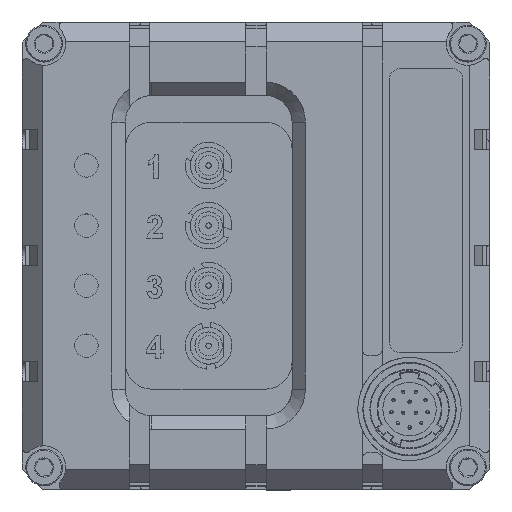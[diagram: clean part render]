
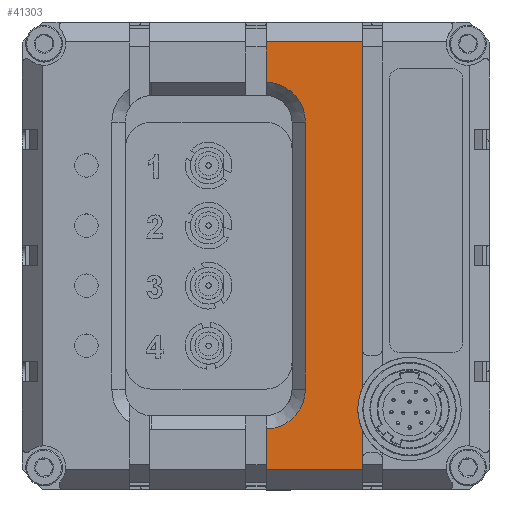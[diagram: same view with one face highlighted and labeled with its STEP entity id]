
A CAD part, top view. The second image highlights one B-rep face of the part: STEP entity #41303.
In plain terms, the highlighted planar face has unit normal (0, 0, 1).
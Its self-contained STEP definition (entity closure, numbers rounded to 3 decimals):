
#141 = AXIS2_PLACEMENT_3D ( 'NONE', #8887, #46282, #29297 ) ;
#642 = ORIENTED_EDGE ( 'NONE', *, *, #39070, .T. ) ;
#3280 = CARTESIAN_POINT ( 'NONE',  ( 1.5, -32., 12. ) ) ;
#3419 = CARTESIAN_POINT ( 'NONE',  ( 0., 0., 12. ) ) ;
#3725 = VECTOR ( 'NONE', #25055, 1000. ) ;
#4306 = CARTESIAN_POINT ( 'NONE',  ( 1.5, -25.999, 12. ) ) ;
#4331 = EDGE_CURVE ( 'Defeatured_0_998+Defeatured_0_1095+Defeatured_0_1087+Defeatured_0_1013', #6261, #35084, #21244, .T. ) ;
#4926 = LINE ( 'NONE', #35825, #50810 ) ;
#6261 = VERTEX_POINT ( 'NONE', #26375 ) ;
#6264 = CARTESIAN_POINT ( 'NONE',  ( 15.9, -26.107, 12. ) ) ;
#6731 = CARTESIAN_POINT ( 'NONE',  ( 15.9, -32., 12. ) ) ;
#7312 = ORIENTED_EDGE ( 'NONE', *, *, #35583, .T. ) ;
#7670 = DIRECTION ( 'NONE',  ( 0., 0., 1. ) ) ;
#7899 = FACE_OUTER_BOUND ( 'NONE', #44690, .T. ) ;
#7971 = VECTOR ( 'NONE', #31136, 1000. ) ;
#8006 = ORIENTED_EDGE ( 'NONE', *, *, #31013, .F. ) ;
#8147 = DIRECTION ( 'NONE',  ( 0., 0., -1. ) ) ;
#8302 = CARTESIAN_POINT ( 'NONE',  ( 1.5, -30., 12. ) ) ;
#8887 = CARTESIAN_POINT ( 'NONE',  ( 1.4, -20., 12. ) ) ;
#8984 = ORIENTED_EDGE ( 'NONE', *, *, #37152, .T. ) ;
#9510 = EDGE_CURVE ( 'Defeatured_0_1095+Defeatured_0_1036+Defeatured_0_907+Defeatured_0_1057', #36694, #51887, #24746, .T. ) ;
#10692 = VERTEX_POINT ( 'NONE', #31207 ) ;
#11033 = AXIS2_PLACEMENT_3D ( 'NONE', #28597, #7670, #45067 ) ;
#11201 = DIRECTION ( 'NONE',  ( 0., -1., 0. ) ) ;
#12128 = DIRECTION ( 'NONE',  ( 0., -1., 0. ) ) ;
#12587 = VECTOR ( 'NONE', #12128, 1000. ) ;
#13145 = EDGE_CURVE ( 'Defeatured_0_1095+Defeatured_0_909+Defeatured_0_1100+Defeatured_0_908', #17654, #45608, #23737, .T. ) ;
#14200 = VECTOR ( 'NONE', #34408, 1000. ) ;
#16390 = CARTESIAN_POINT ( 'NONE',  ( 7.4, -20., 12. ) ) ;
#17654 = VERTEX_POINT ( 'NONE', #34312 ) ;
#19704 = VERTEX_POINT ( 'NONE', #42343 ) ;
#20312 = DIRECTION ( 'NONE',  ( 0., 0., 1. ) ) ;
#20621 = ORIENTED_EDGE ( 'NONE', *, *, #22775, .F. ) ;
#21244 = CIRCLE ( 'NONE', #11033, 7.75 ) ;
#21325 = AXIS2_PLACEMENT_3D ( 'NONE', #3419, #52935, #32479 ) ;
#22174 = CARTESIAN_POINT ( 'NONE',  ( 15.9, 30., 12. ) ) ;
#22355 = CIRCLE ( 'NONE', #141, 6. ) ;
#22775 = EDGE_CURVE ( 'Defeatured_0_998+Defeatured_0_1095+Defeatured_0_1087+Defeatured_0_1013', #10692, #6261, #23649, .T. ) ;
#23408 = DIRECTION ( 'NONE',  ( 0., -1., 0. ) ) ;
#23649 = CIRCLE ( 'NONE', #53629, 7.75 ) ;
#23737 = CIRCLE ( 'NONE', #30016, 6. ) ;
#24746 = LINE ( 'NONE', #30408, #53155 ) ;
#25055 = DIRECTION ( 'NONE',  ( 1., 0., 0. ) ) ;
#26375 = CARTESIAN_POINT ( 'NONE',  ( 15.25, -23., 12. ) ) ;
#27205 = EDGE_CURVE ( 'Defeatured_0_1087+Defeatured_0_1095+Defeatured_0_1058+Defeatured_0_998', #51395, #10692, #38741, .T. ) ;
#28140 = ORIENTED_EDGE ( 'NONE', *, *, #13145, .T. ) ;
#28401 = VECTOR ( 'NONE', #11201, 1000. ) ;
#28597 = CARTESIAN_POINT ( 'NONE',  ( 23., -23., 12. ) ) ;
#28600 = DIRECTION ( 'NONE',  ( 1., 0., 0. ) ) ;
#28661 = CARTESIAN_POINT ( 'NONE',  ( 15.9, 32., 12. ) ) ;
#29297 = DIRECTION ( 'NONE',  ( 1., 0., 0. ) ) ;
#30016 = AXIS2_PLACEMENT_3D ( 'NONE', #41393, #8147, #41041 ) ;
#30408 = CARTESIAN_POINT ( 'NONE',  ( 1.5, -30., 12. ) ) ;
#30978 = LINE ( 'NONE', #48238, #28401 ) ;
#31013 = EDGE_CURVE ( 'Defeatured_0_1013+Defeatured_0_1095+Defeatured_0_998+Defeatured_0_1057', #35084, #33024, #30978, .T. ) ;
#31136 = DIRECTION ( 'NONE',  ( -1., 0., 0. ) ) ;
#31207 = CARTESIAN_POINT ( 'NONE',  ( 15.9, -19.893, 12. ) ) ;
#32479 = DIRECTION ( 'NONE',  ( 1., 0., 0. ) ) ;
#33024 = VERTEX_POINT ( 'NONE', #6731 ) ;
#33757 = EDGE_CURVE ( 'Defeatured_0_1095+Defeatured_0_1100+Defeatured_0_1058+Defeatured_0_909', #19704, #17654, #37126, .T. ) ;
#34312 = CARTESIAN_POINT ( 'NONE',  ( 1.5, 25.999, 12. ) ) ;
#34408 = DIRECTION ( 'NONE',  ( 0., -1., 0. ) ) ;
#35084 = VERTEX_POINT ( 'NONE', #6264 ) ;
#35583 = EDGE_CURVE ( 'Defeatured_0_1095+Defeatured_0_1058+Defeatured_0_1087+Defeatured_0_1100', #51395, #19704, #49941, .T. ) ;
#35825 = CARTESIAN_POINT ( 'NONE',  ( 7.4, -20., 12. ) ) ;
#36440 = PLANE ( 'NONE',  #21325 ) ;
#36694 = VERTEX_POINT ( 'NONE', #4306 ) ;
#37126 = LINE ( 'NONE', #8302, #12587 ) ;
#37152 = EDGE_CURVE ( 'Defeatured_0_1095+Defeatured_0_1057+Defeatured_0_1036+Defeatured_0_1013', #51887, #33024, #52210, .T. ) ;
#37485 = CARTESIAN_POINT ( 'NONE',  ( 32., -32., 12. ) ) ;
#38741 = LINE ( 'NONE', #22174, #14200 ) ;
#38842 = EDGE_CURVE ( 'Defeatured_0_1095+Defeatured_0_908+Defeatured_0_909+Defeatured_0_907', #45608, #39842, #4926, .T. ) ;
#39070 = EDGE_CURVE ( 'Defeatured_0_1095+Defeatured_0_907+Defeatured_0_908+Defeatured_0_1036', #39842, #36694, #22355, .T. ) ;
#39842 = VERTEX_POINT ( 'NONE', #16390 ) ;
#41041 = DIRECTION ( 'NONE',  ( 1., 0., 0. ) ) ;
#41303 = ADVANCED_FACE ( 'Defeatured_0_1095', ( #7899 ), #36440, .T. ) ;
#41393 = CARTESIAN_POINT ( 'NONE',  ( 1.4, 20., 12. ) ) ;
#42343 = CARTESIAN_POINT ( 'NONE',  ( 1.5, 32., 12. ) ) ;
#43188 = CARTESIAN_POINT ( 'NONE',  ( 7.4, 20., 12. ) ) ;
#43404 = ORIENTED_EDGE ( 'NONE', *, *, #9510, .T. ) ;
#43516 = ORIENTED_EDGE ( 'NONE', *, *, #27205, .F. ) ;
#44690 = EDGE_LOOP ( 'NONE', ( #49307, #642, #43404, #8984, #8006, #47338, #20621, #43516, #7312, #52023, #28140 ) ) ;
#45067 = DIRECTION ( 'NONE',  ( 1., 0., 0. ) ) ;
#45071 = CARTESIAN_POINT ( 'NONE',  ( 23., -23., 12. ) ) ;
#45608 = VERTEX_POINT ( 'NONE', #43188 ) ;
#46282 = DIRECTION ( 'NONE',  ( 0., 0., -1. ) ) ;
#47338 = ORIENTED_EDGE ( 'NONE', *, *, #4331, .F. ) ;
#48238 = CARTESIAN_POINT ( 'NONE',  ( 15.9, 30., 12. ) ) ;
#49307 = ORIENTED_EDGE ( 'NONE', *, *, #38842, .T. ) ;
#49941 = LINE ( 'NONE', #51029, #7971 ) ;
#50661 = DIRECTION ( 'NONE',  ( 0., -1., 0. ) ) ;
#50810 = VECTOR ( 'NONE', #23408, 1000. ) ;
#51029 = CARTESIAN_POINT ( 'NONE',  ( -32., 32., 12. ) ) ;
#51395 = VERTEX_POINT ( 'NONE', #28661 ) ;
#51887 = VERTEX_POINT ( 'NONE', #3280 ) ;
#52023 = ORIENTED_EDGE ( 'NONE', *, *, #33757, .T. ) ;
#52210 = LINE ( 'NONE', #37485, #3725 ) ;
#52935 = DIRECTION ( 'NONE',  ( 0., 0., 1. ) ) ;
#53155 = VECTOR ( 'NONE', #50661, 1000. ) ;
#53629 = AXIS2_PLACEMENT_3D ( 'NONE', #45071, #20312, #28600 ) ;
